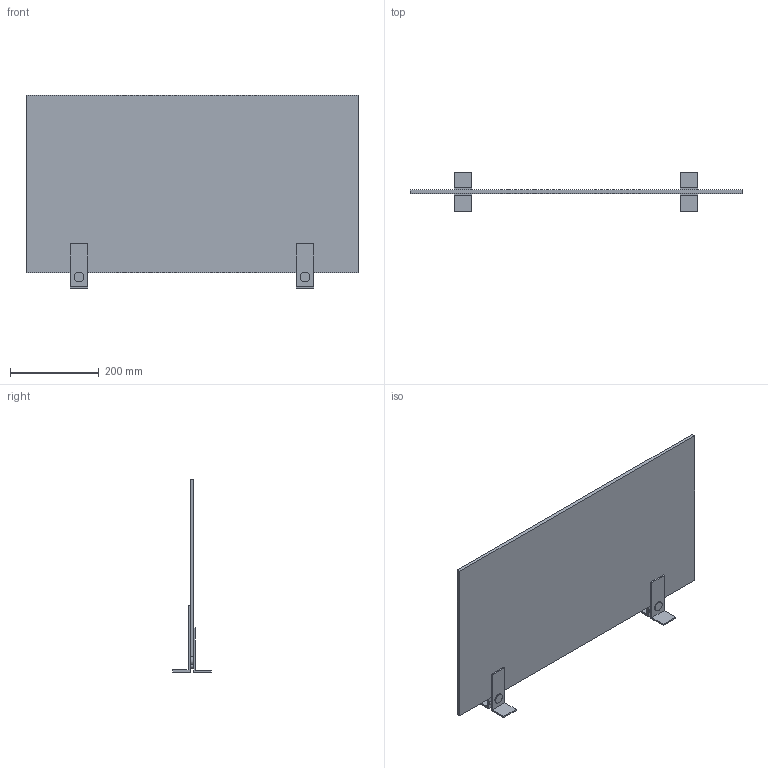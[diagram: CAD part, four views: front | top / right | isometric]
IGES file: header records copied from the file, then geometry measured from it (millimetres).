
Start section: Data from Parasolid IGES Translator 20.0.26, Copyright(c) 2006 Siemens P LM Software. All Rights Reserved.
Global section: file name: 9309841.igs; native system: By Siemens PLM Incorporated; preprocessor: XPlus GENERIC/IGES 20.0.26; author: Noname; organization: Noname; date: 20220302.125150; units: millimetre
Bounding box: 750 x 88 x 436 mm (x, y, z)
Surface area: 677990.4 mm2 (no closed solid volume)
Topology: 0 solids, 0 shells, 72 faces, 312 edges, 296 vertices
Faces by surface type: extrusion 64, revolution 8
